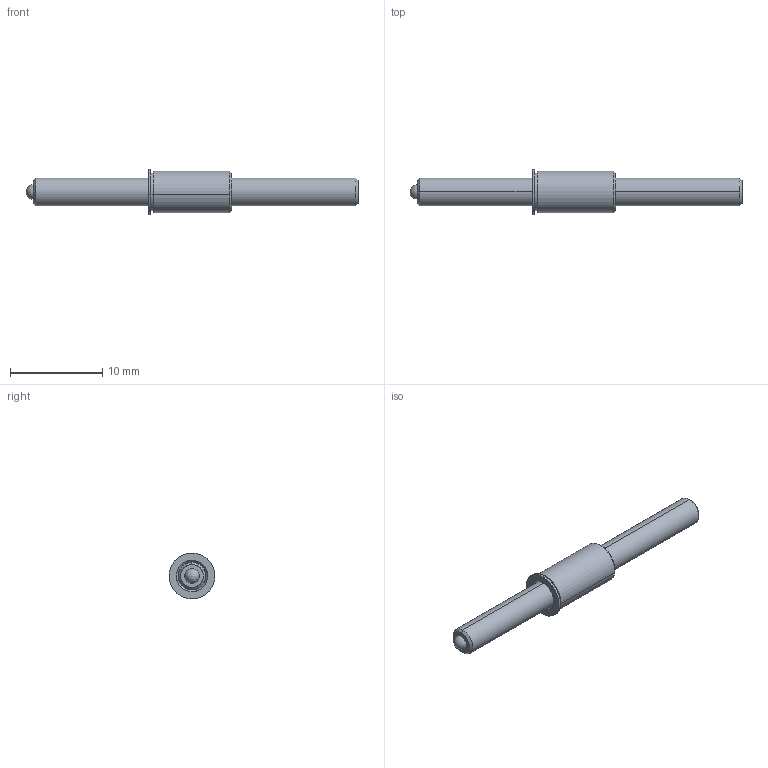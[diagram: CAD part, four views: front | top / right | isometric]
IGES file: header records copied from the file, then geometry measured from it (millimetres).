
Start section: SolidWorks IGES file using analytic representation for surfaces
Global section: file name: C:\Users\workpc\Desktop\KMA Solidworks\TSBM3-25-36_9.IGS; native system: SolidWorks 2013; preprocessor: SolidWorks 2013; author: workpc; date: 130315.061453; units: inch
Bounding box: 36 x 4.95 x 4.95 mm (x, y, z)
Surface area: 514.4 mm2 (no closed solid volume)
Topology: 0 solids, 0 shells, 32 faces, 446 edges, 442 vertices
Faces by surface type: revolution 20, bspline 12
